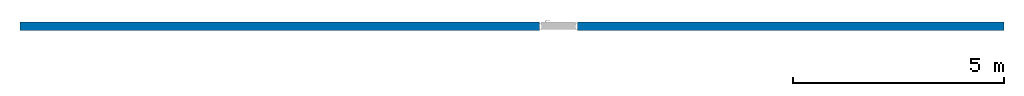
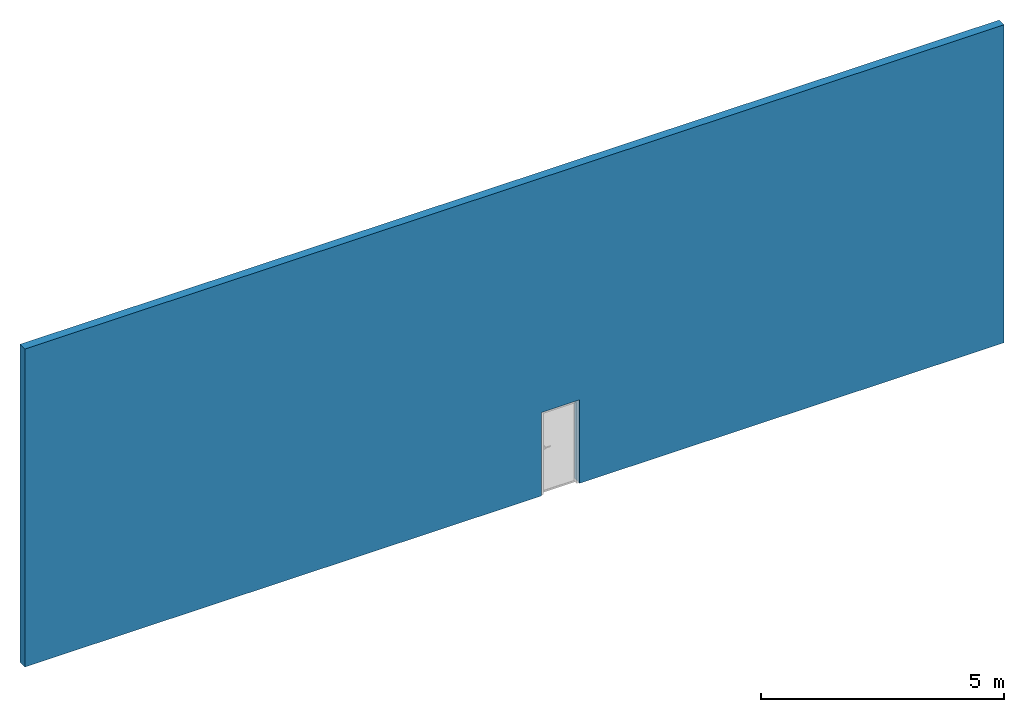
# One storey, incomplete: 1 wall, 1 opening.
"""IFC2X3 building model written with IfcOpenShell, lengths in millimetres."""

from ifc_helpers import new_model, entity, si_unit, converted_unit, frame, frame_2d, origin, place, context, project, spatial, rectangle, extrude, material, layer, layer_set, layer_usage, element, save


model = new_model("IFC2X3")

# Units and contexts
model_context = context("Model", 3, precision=1e-06, world=origin())
plan_context = context("Plan", 3, precision=1e-06, world=origin())
ifc_project = project(units=[si_unit("LENGTHUNIT", "METRE", prefix="MILLI"), si_unit("AREAUNIT", "SQUARE_METRE", prefix="MILLI"), si_unit("VOLUMEUNIT", "CUBIC_METRE", prefix="MILLI"), converted_unit("PLANEANGLEUNIT", "DEGREE", entity("IfcRatioMeasure", 0.01745329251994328), si_unit("PLANEANGLEUNIT", "RADIAN"), dimensions=[0, 0, 0, 0, 0, 0, 0]), si_unit("TIMEUNIT", "SECOND")], contexts=[model_context, plan_context])

# Site, building, storey
site_placement = place(None, origin())
site = spatial("IfcSite", under=ifc_project, at=site_placement, CompositionType="ELEMENT")
building_placement = place(site_placement, origin())
building = spatial("IfcBuilding", under=site, at=building_placement, CompositionType="ELEMENT")
storey_placement = place(building_placement, origin())
storey = spatial("IfcBuildingStorey", under=building, at=storey_placement, Name="Level 1", CompositionType="ELEMENT", Elevation=0.0)

# Wall, opening
ifc_material = material(Name="Default Wall")
ifc_layer = layer(ifc_material, 200.0)
ifc_layer_set = layer_set([ifc_layer], Name="Generic - 200mm")
ifc_layer_usage = layer_usage(ifc_layer_set, "AXIS2", "NEGATIVE", 100.0)
wall_placement = place(storey_placement, frame((-12274.09495229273, 253.0020876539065, 0.0)))
wall = element("IfcWallStandardCase", 1, at=wall_placement, inside=storey, material=ifc_layer_usage, Name="Generic - 200mm", ObjectType="Generic - 200mm:398", context=model_context, shape_type="SweptSolid", body=[
    extrude(rectangle(XDim=23300.0, YDim=200.0000000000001, at=frame_2d((11650.0, 0.0), x_axis=(-1.0, 0.0))), origin(), (0.0, 0.0, 1.0), 8000.000000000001),
])
opening_placement = place(wall_placement, frame((12300.0, -100.0, 0.0)))
element("IfcOpeningElement", 2, at=opening_placement, cuts=wall, Name="HUE010003:HUE010003:HUE010003:1", ObjectType="Opening", context=model_context, shape_type="SweptSolid", body=[
    extrude(rectangle(XDim=2099.999999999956, YDim=899.9999999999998, at=frame_2d((1050.0, 450.0), x_axis=(1.0, 0.0))), frame((0.0, 0.0, 0.0), z_axis=(0.0, 1.0, 0.0), x_axis=(0.0, 0.0, 1.0)), (0.0, 0.0, 1.0), 200.0),
])

save(model, "model.ifc")
